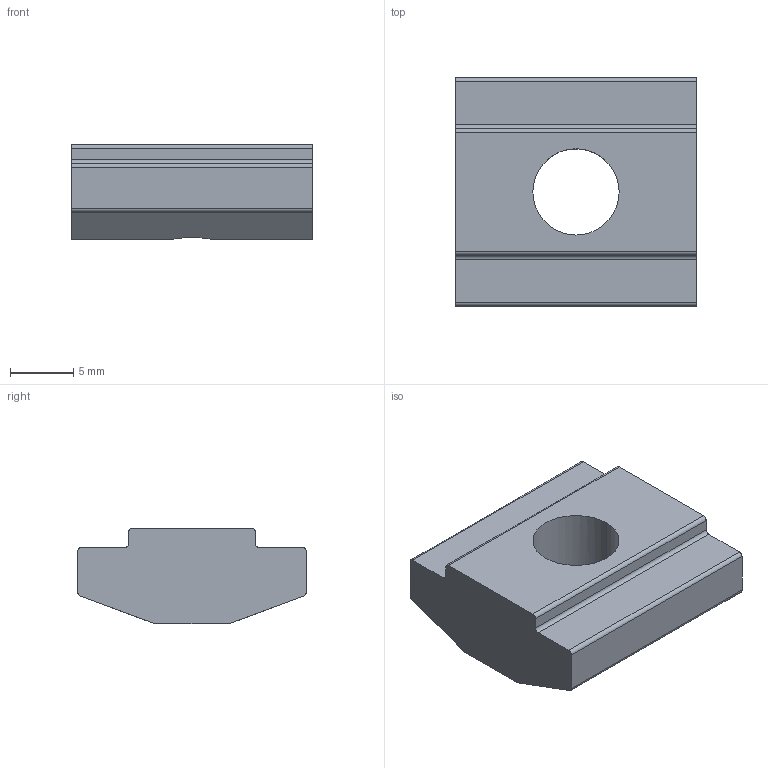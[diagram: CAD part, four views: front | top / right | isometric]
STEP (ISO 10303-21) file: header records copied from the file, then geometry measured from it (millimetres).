
FILE_DESCRIPTION (( 'STEP AP203' ), '1' );
FILE_NAME ('0110NSM8STFL.STEP', '2024-03-05T13:45:57', ( 'Windows-Benutzer' ), ( '' ), 'SwSTEP 2.0', 'SolidWorks 2023', '' );
FILE_SCHEMA (( 'CONFIG_CONTROL_DESIGN' ));
Length unit declared in the file: millimetre
Products named in the file (1): 0110NSM8STFL
Bounding box: 19 x 18 x 7.5 mm (x, y, z)
Volume: 1806.4 mm3; surface area: 1188 mm2
Topology: 1 solids, 1 shells, 23 faces, 66 edges, 44 vertices
Faces by surface type: plane 13, cylinder 10
Entity records: 843 total; most frequent: CARTESIAN_POINT 140, DIRECTION 134, ORIENTED_EDGE 132, EDGE_CURVE 66, AXIS2_PLACEMENT_3D 46, VERTEX_POINT 44, LINE 42, VECTOR 42
